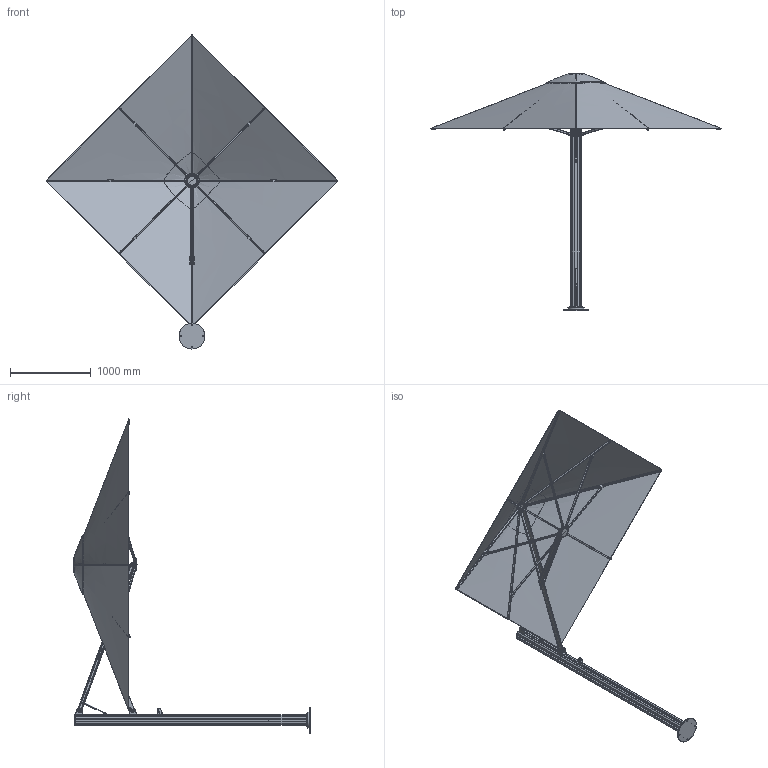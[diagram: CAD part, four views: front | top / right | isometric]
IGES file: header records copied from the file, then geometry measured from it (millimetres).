
Start section: SolidWorks IGES file using analytic representation for surfaces
Global section: file name: S:\RESEARCH and DEVELOPMENT\UnitySerenity Simple CAD Models\1. Export CAD\IGES Files\2.5M CNR SQ Uno.IGS; native system: SolidWorks 2017; preprocessor: SolidWorks 2017; author: Peter; date: 200619.101615; units: millimetre
Bounding box: 3622.15 x 2943.5 x 3899.62 mm (x, y, z)
Surface area: 21171464.5 mm2 (no closed solid volume)
Topology: 0 solids, 0 shells, 1714 faces, 22653 edges, 22641 vertices
Faces by surface type: revolution 861, bspline 853
